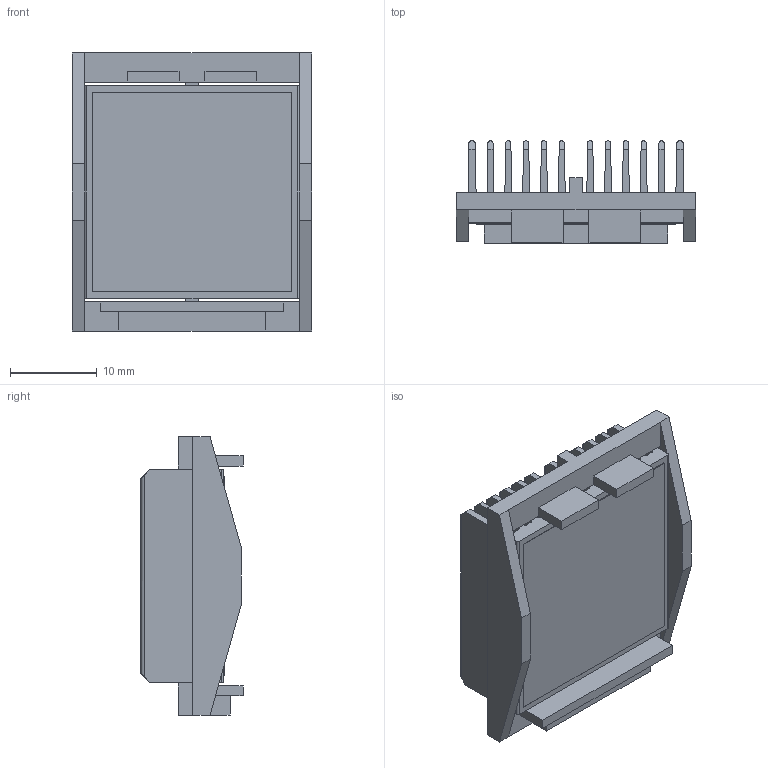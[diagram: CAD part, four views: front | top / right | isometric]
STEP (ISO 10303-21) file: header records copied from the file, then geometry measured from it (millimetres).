
FILE_DESCRIPTION (( 'STEP AP214' ), '1' );
FILE_NAME ('INL25001-10-1.7Y.STEP', '2023-02-21T19:31:31', ( '' ), ( '' ), 'SwSTEP 2.0', 'SolidWorks 2020', '' );
FILE_SCHEMA (( 'AUTOMOTIVE_DESIGN' ));
Length unit declared in the file: millimetre
Products named in the file (1): INL25001-10-1.7Y
Bounding box: 27.7 x 11.8 x 32.1 mm (x, y, z)
Volume: 3803.5 mm3; surface area: 8680.6 mm2
Topology: 3 solids, 3 shells, 152 faces, 440 edges, 292 vertices
Faces by surface type: plane 116, cylinder 36
Entity records: 6668 total; most frequent: CARTESIAN_POINT 957, ORIENTED_EDGE 880, DIRECTION 770, EDGE_CURVE 440, VECTOR 368, LINE 368, VERTEX_POINT 292, AXIS2_PLACEMENT_3D 201
